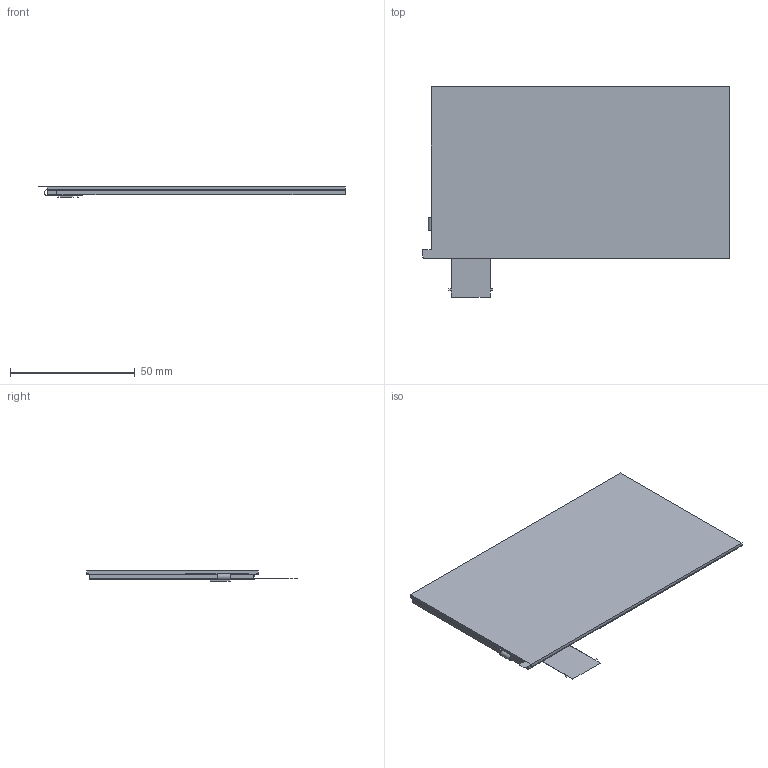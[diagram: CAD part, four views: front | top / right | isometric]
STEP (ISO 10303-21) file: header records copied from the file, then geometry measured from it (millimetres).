
FILE_DESCRIPTION(('FreeCAD Model'),'2;1');
FILE_NAME('Open CASCADE Shape Model','2026-05-21T16:11:19',(''),(''), 'Open CASCADE STEP processor 7.8','FreeCAD','Unknown');
FILE_SCHEMA(('AUTOMOTIVE_DESIGN { 1 0 10303 214 1 1 1 1 }'));
Length unit declared in the file: millimetre
Products named in the file (1): Body
Bounding box: 122.88 x 84.23 x 4.08 mm (x, y, z)
Volume: 23628.2 mm3; surface area: 33216.3 mm2
Topology: 1 solids, 2 shells, 210 faces, 561 edges, 363 vertices
Faces by surface type: plane 180, cylinder 30
Entity records: 6441 total; most frequent: CARTESIAN_POINT 1135, ORIENTED_EDGE 1122, DIRECTION 1039, EDGE_CURVE 561, LINE 505, VECTOR 505, VERTEX_POINT 363, AXIS2_PLACEMENT_3D 267
